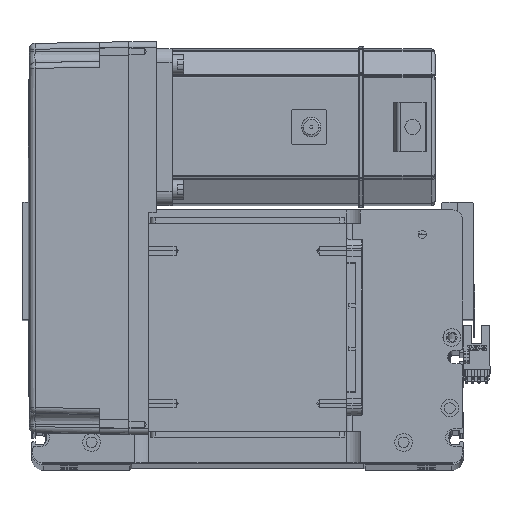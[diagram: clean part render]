
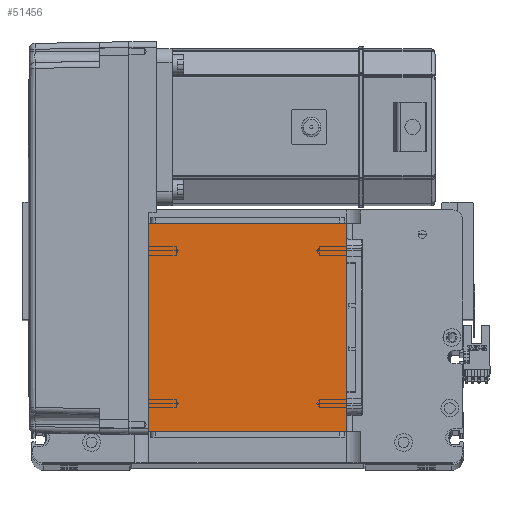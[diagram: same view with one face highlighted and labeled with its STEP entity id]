
A CAD part, top view. The second image highlights one B-rep face of the part: STEP entity #51456.
In plain terms, the highlighted planar face has unit normal (0, 0, 1).
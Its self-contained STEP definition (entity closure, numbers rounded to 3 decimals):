
#2142 = CARTESIAN_POINT ( 'NONE',  ( 50.5, 16., 115. ) ) ;
#2463 = EDGE_CURVE ( 'NONE', #24127, #44082, #42238, .T. ) ;
#2550 = ORIENTED_EDGE ( 'NONE', *, *, #2463, .T. ) ;
#3567 = ORIENTED_EDGE ( 'NONE', *, *, #25973, .T. ) ;
#4312 = CARTESIAN_POINT ( 'NONE',  ( 0., 0., 115. ) ) ;
#6653 = ORIENTED_EDGE ( 'NONE', *, *, #26463, .T. ) ;
#7052 = VECTOR ( 'NONE', #33340, 1000. ) ;
#9496 = LINE ( 'NONE', #36861, #13388 ) ;
#11414 = DIRECTION ( 'NONE',  ( 0., 1., 0. ) ) ;
#11678 = DIRECTION ( 'NONE',  ( 0., -1., 0. ) ) ;
#12036 = CARTESIAN_POINT ( 'NONE',  ( -50.5, 122., 115. ) ) ;
#13388 = VECTOR ( 'NONE', #11414, 1000. ) ;
#15101 = VECTOR ( 'NONE', #31274, 1000. ) ;
#16420 = PLANE ( 'NONE',  #30376 ) ;
#16600 = DIRECTION ( 'NONE',  ( 1., 0., 0. ) ) ;
#17913 = VECTOR ( 'NONE', #11678, 1000. ) ;
#18893 = EDGE_LOOP ( 'NONE', ( #30142, #6653, #3567, #2550 ) ) ;
#24127 = VERTEX_POINT ( 'NONE', #40677 ) ;
#24548 = DIRECTION ( 'NONE',  ( 0., 0., 1. ) ) ;
#25973 = EDGE_CURVE ( 'NONE', #51748, #24127, #9496, .T. ) ;
#26463 = EDGE_CURVE ( 'NONE', #26658, #51748, #29033, .T. ) ;
#26658 = VERTEX_POINT ( 'NONE', #39564 ) ;
#29033 = LINE ( 'NONE', #29721, #7052 ) ;
#29721 = CARTESIAN_POINT ( 'NONE',  ( -50.5, 16., 115. ) ) ;
#30142 = ORIENTED_EDGE ( 'NONE', *, *, #38608, .T. ) ;
#30376 = AXIS2_PLACEMENT_3D ( 'NONE', #4312, #24548, #16600 ) ;
#31274 = DIRECTION ( 'NONE',  ( -1., 0., 0. ) ) ;
#33340 = DIRECTION ( 'NONE',  ( 1., 0., 0. ) ) ;
#36861 = CARTESIAN_POINT ( 'NONE',  ( 50.5, 122., 115. ) ) ;
#38608 = EDGE_CURVE ( 'NONE', #44082, #26658, #41135, .T. ) ;
#39564 = CARTESIAN_POINT ( 'NONE',  ( -50.5, 16., 115. ) ) ;
#40677 = CARTESIAN_POINT ( 'NONE',  ( 50.5, 122., 115. ) ) ;
#41135 = LINE ( 'NONE', #12036, #17913 ) ;
#42238 = LINE ( 'NONE', #43354, #15101 ) ;
#43354 = CARTESIAN_POINT ( 'NONE',  ( -50.5, 122., 115. ) ) ;
#44082 = VERTEX_POINT ( 'NONE', #48119 ) ;
#48119 = CARTESIAN_POINT ( 'NONE',  ( -50.5, 122., 115. ) ) ;
#49289 = FACE_OUTER_BOUND ( 'NONE', #18893, .T. ) ;
#51456 = ADVANCED_FACE ( 'NONE', ( #49289 ), #16420, .T. ) ;
#51748 = VERTEX_POINT ( 'NONE', #2142 ) ;
